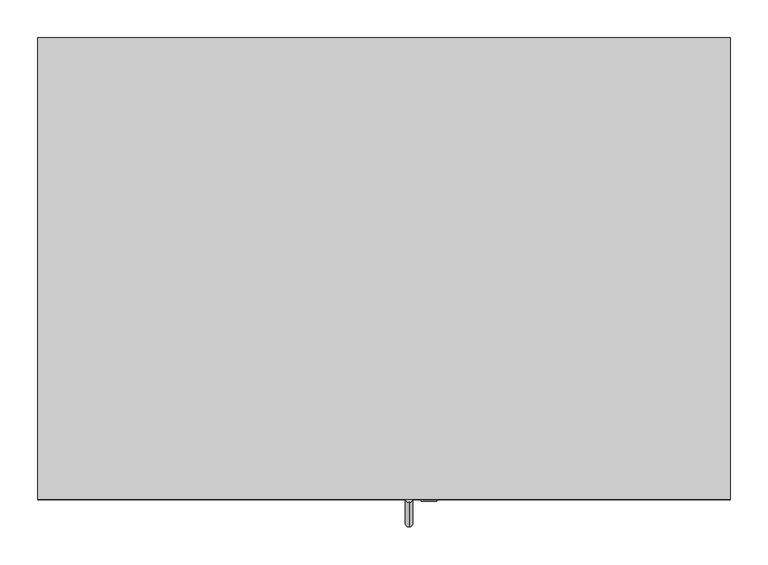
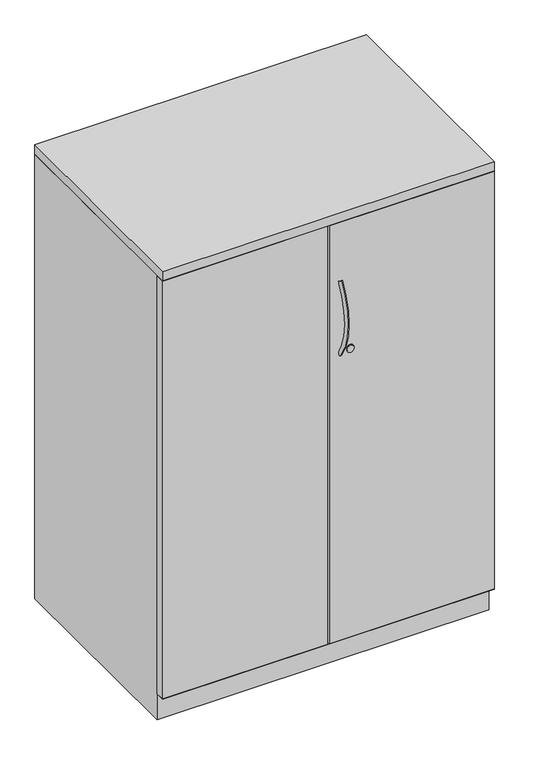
"""IFC4 building model written with IfcOpenShell, lengths in millimetres: furniture geometry, Steelcase - Universal Storage - Cabinet - Storage - 40H-52H - Proud Steel : 52H x 23 1/8D x 36W."""

from ifc_helpers import new_model, si_unit, point, frame, frame_2d, origin, place, context, project, spatial, polyline, circle_curve, ellipse_curve, trimmed, segment, composite_curve, outline, extrude, faceted_brep, source, transform, mapped, element, save
from ifc_brep_helpers import plane_surface, revolved_surface, advanced_brep


def furniture_7c2fec16(model_context):
    return source(origin(), model_context, "Body", "SolidModel", [
        extrude(outline(polyline([(914.4, 0.0), (914.4, -609.6), (0.0, -609.6), (0.0, 0.0), (914.4, 0.0)])), frame((0.0, 0.0, 1295.4), z_axis=(0.0, 0.0, 1.0), x_axis=(1.0, 0.0, 0.0)), (0.0, 0.0, 1.0), 25.4),
        extrude(outline(polyline([(0.0, -609.6), (0.0, -584.2008418), (454.66, -584.2008418), (454.66, -609.6), (0.0, -609.6)])), frame((0.0, 0.0, 77.724), z_axis=(0.0, 0.0, 1.0), x_axis=(1.0, 0.0, 0.0)), (0.0, 0.0, 1.0), 1216.152),
        extrude(outline(polyline([(914.4, -584.2008418), (914.4, -609.6), (459.74, -609.6), (459.74, -584.2008418), (914.4, -584.2008418)])), frame((0.0, 0.0, 77.724), z_axis=(0.0, 0.0, 1.0), x_axis=(1.0, 0.0, 0.0)), (0.0, 0.0, 1.0), 1216.152),
        extrude(outline(composite_curve([segment(trimmed(circle_curve(frame_2d((917.702, 516.7418131)), 10.16), [point((917.702, 526.9018131))], [point((917.702, 506.5818131))], False, "CARTESIAN"), True, "CONTINUOUS"), segment(trimmed(circle_curve(frame_2d((917.702, 516.7418131)), 10.16), [point((917.702, 506.5818131))], [point((917.702, 526.9018131))], False, "CARTESIAN"), True, "CONTINUOUS")], self_intersect=False)), frame((0.0, -612.013031, 0.0), z_axis=(0.0, 1.0, 0.0), x_axis=(0.0, 0.0, 1.0)), (0.0, 0.0, 1.0), 2.413031),
        advanced_brep(
        [(490.2783765, -605.0224318, 1119.7196018), (490.2783765, -613.6221633, 1125.3900503), (490.2783765, -602.5951581, 911.9931915), (490.2783765, -611.0600418, 906.1233437)],
        [
            (0, 1, circle_curve(frame((490.2783765, -609.3222976, 1122.5548261), z_axis=(0.0, 0.5504787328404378, 0.83484918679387), x_axis=(0.0, -0.83484918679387, 0.5504787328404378)), 5.1504701)),
            (1, 0, circle_curve(frame((490.2783765, -609.3222976, 1122.5548261), z_axis=(0.0, 0.5504787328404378, 0.83484918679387), x_axis=(0.0, -0.83484918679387, 0.5504787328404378)), 5.1504701)),
            (2, 3, circle_curve(frame((490.2783765, -606.8276, 909.0582676), z_axis=(0.0, 0.5698361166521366, -0.8217583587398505), x_axis=(0.0, -0.8217583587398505, -0.5698361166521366)), 5.1504701)),
            (3, 2, circle_curve(frame((490.2783765, -606.8276, 909.0582676), z_axis=(0.0, 0.5698361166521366, -0.8217583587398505), x_axis=(0.0, -0.8217583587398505, -0.5698361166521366)), 5.1504701)),
            (3, 1, circle_curve(frame((490.2783765, -450.226461, 1017.6509992), z_axis=(-1.0, 0.0, 0.0), x_axis=(0.0, -0.83484918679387, 0.5504787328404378)), 195.7188256)),
            (0, 2, circle_curve(frame((490.2783765, -450.226461, 1017.6509992), z_axis=(1.0, 0.0, 0.0), x_axis=(0.0, -0.83484918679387, 0.5504787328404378)), 185.4178854)),
        ],
        [
            plane_surface(frame((490.2783765, -609.3222976, 1122.5548261), z_axis=(0.0, 0.5504787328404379, 0.83484918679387), x_axis=(-1.0, 0.0, 0.0))),
            plane_surface(frame((490.2783765, -606.8276, 909.0582676), z_axis=(0.0, 0.5698361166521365, -0.8217583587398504), x_axis=(-1.0, 0.0, 0.0))),
            revolved_surface(trimmed(ellipse_curve(frame((490.2783765, -609.3222976, 1122.5548261), z_axis=(0.0, 0.5504787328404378, 0.83484918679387), x_axis=(0.0, -0.83484918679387, 0.5504787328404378)), 5.1504701, 5.1504701), [point((490.2783765, -605.0224318, 1119.7196018))], [point((490.2783765, -613.6221633, 1125.3900503))], True, "CARTESIAN"), (490.2783765, -450.226461, 1017.6509992), (1.0, 0.0, 0.0)),
            revolved_surface(trimmed(ellipse_curve(frame((490.2783765, -609.3222976, 1122.5548261), z_axis=(0.0, 0.5504787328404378, 0.83484918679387), x_axis=(0.0, -0.83484918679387, 0.5504787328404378)), 5.1504701, 5.1504701), [point((490.2783765, -613.6221633, 1125.3900503))], [point((490.2783765, -605.0224318, 1119.7196018))], True, "CARTESIAN"), (490.2783765, -450.226461, 1017.6509992), (1.0, 0.0, 0.0)),
        ],
        [
            (0, [[1, 2]]),
            (1, [[3, 4]]),
            (2, [[5, -1, 6, -4]]),
            (3, [[-6, -2, -5, -3]]),
        ],
    ),
        extrude(outline(composite_curve([segment(trimmed(circle_curve(frame_2d((919.3669832, 517.0109835)), 9.7167829), [point((919.3669832, 526.7277664))], [point((919.3669832, 507.2942006))], False, "CARTESIAN"), True, "CONTINUOUS"), segment(trimmed(circle_curve(frame_2d((919.3669832, 517.0109835)), 9.7167829), [point((919.3669832, 507.2942006))], [point((919.3669832, 526.7277664))], False, "CARTESIAN"), True, "CONTINUOUS")], self_intersect=False)), frame((0.0, -610.2695275, 0.0), z_axis=(0.0, 1.0, 0.0), x_axis=(0.0, 0.0, 1.0)), (0.0, 0.0, 1.0), 0.6695275),
        faceted_brep([(914.4, 0.0, 0.0), (914.4, -582.6768432, 0.0), (0.0, -582.6768432, 0.0), (0.0, 0.0, 0.0), (0.0, 0.0, 1293.876), (914.4, 0.0, 1293.876), (0.0, -582.6768432, 76.2), (0.0, -609.6, 76.2), (0.0, -609.6, 77.724), (0.0, -582.6768432, 77.724), (0.0, -582.6768432, 1293.876), (914.4, -582.6768432, 76.2), (914.4, -582.6768432, 1293.876), (914.4, -582.6768432, 77.724), (914.4, -609.4738418, 77.724), (914.4, -609.6, 76.2), (889.0000242, -25.4000008, 1293.876), (889.0000242, -582.6768432, 1293.876), (25.3999758, -582.6768432, 1293.876), (25.3999758, -25.4000008, 1293.876), (889.0000242, -25.4000008, 77.724), (889.0000242, -582.6768432, 77.724), (25.3999758, -582.6768432, 77.724), (25.3999758, -25.4000008, 77.724), (4.6981334, -584.2008418, 77.724), (889.0000242, -584.2008418, 77.724)], [[[0, 1, 2, 3]], [[0, 3, 4, 5]], [[4, 3, 2, 6, 7, 8, 9, 10]], [[2, 1, 11, 6]], [[1, 0, 5, 12, 13, 14, 15, 11]], [[16, 17, 12, 5, 4, 10, 18, 19]], [[17, 16, 20, 21]], [[12, 17, 21, 13]], [[18, 10, 9, 22]], [[19, 18, 22, 23]], [[16, 19, 23, 20]], [[8, 24, 25, 14, 13, 21, 20, 23, 22, 9]], [[15, 7, 6, 11]], [[24, 8, 7]], [[25, 24, 7, 15]], [[14, 25, 15]]]),
    ])


if __name__ == "__main__":
    model = new_model("IFC4")
    model_context = context("Model", 3, world=origin())
    ifc_project = project(units=[si_unit("LENGTHUNIT", "METRE", prefix="MILLI")], contexts=[model_context])
    site = spatial("IfcSite", under=ifc_project)
    building = spatial("IfcBuilding", under=site)
    placement = place(None, origin())
    furniture_shape = furniture_7c2fec16(model_context)
    element("IfcFurniture", 1, ObjectType="Steelcase - Universal Storage - Cabinet - Storage - 40H-52H - Proud Steel : 52H x 23 1/8D x 36W", at=placement, inside=building, context=model_context, shape_type="MappedRepresentation", body=[
        mapped(furniture_shape, transform((0.0, 0.0, 0.0), x_axis=(1.0, 0.0, 0.0), y_axis=(0.0, 1.0, 0.0), z_axis=(0.0, 0.0, 1.0))),
    ])
    save(model, "model.ifc")
